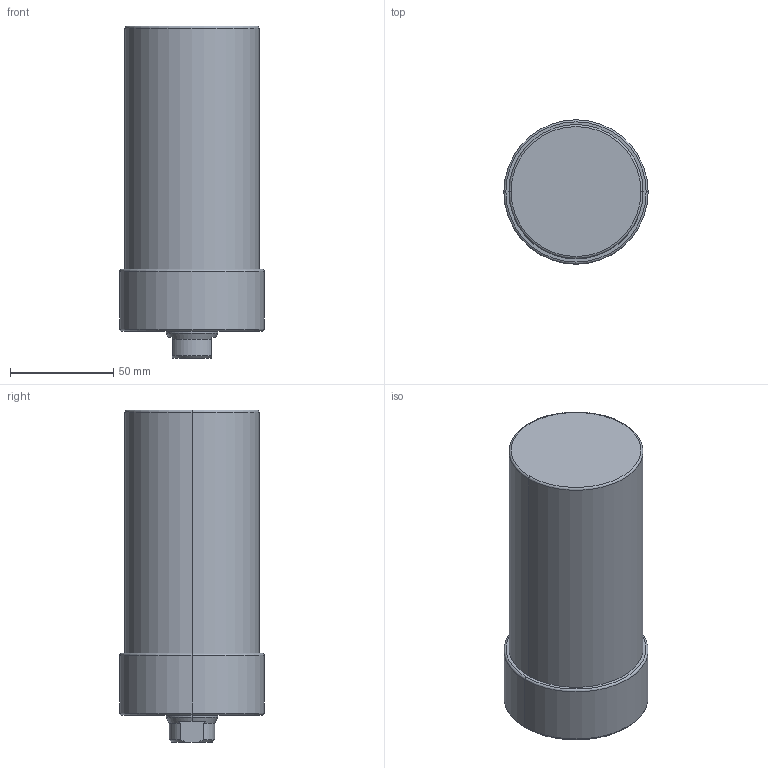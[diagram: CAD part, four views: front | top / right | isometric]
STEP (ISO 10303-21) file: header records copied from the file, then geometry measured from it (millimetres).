
FILE_DESCRIPTION (( 'STEP AP203' ), '1' );
FILE_NAME ('CLLU-065GA-085.STEP', '2020-01-07T00:05:00', ( '' ), ( '' ), 'SwSTEP 2.0', 'SolidWorks 2015', '' );
FILE_SCHEMA (( 'CONFIG_CONTROL_DESIGN' ));
Length unit declared in the file: millimetre
Products named in the file (1): CLLU-065GA-085
Bounding box: 70 x 70 x 161 mm (x, y, z)
Volume: 507448.2 mm3; surface area: 41120.6 mm2
Topology: 1 solids, 1 shells, 62 faces, 140 edges, 79 vertices
Faces by surface type: cone 24, cylinder 22, plane 10, torus 6
Entity records: 1751 total; most frequent: DIRECTION 320, CARTESIAN_POINT 300, ORIENTED_EDGE 260, AXIS2_PLACEMENT_3D 135, EDGE_CURVE 130, VERTEX_POINT 79, CIRCLE 72, EDGE_LOOP 71
